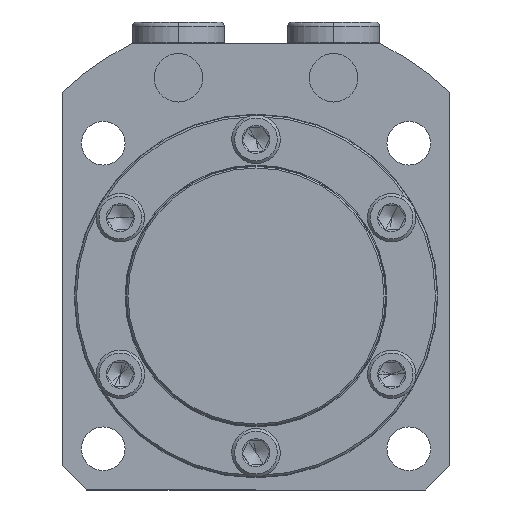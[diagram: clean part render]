
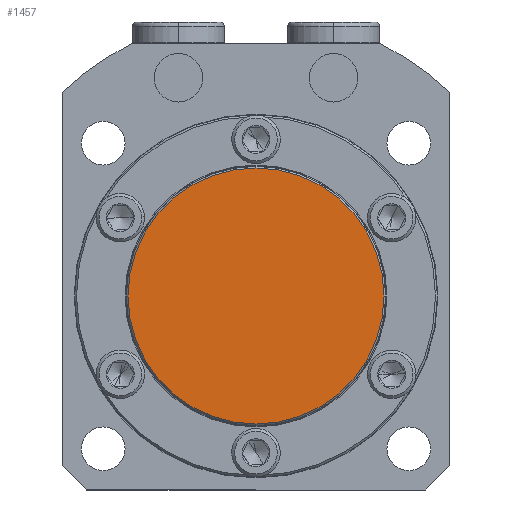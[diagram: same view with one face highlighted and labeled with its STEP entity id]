
A CAD part, front view. The second image highlights one B-rep face of the part: STEP entity #1457.
In plain terms, the highlighted planar face has unit normal (0, -1, 0).
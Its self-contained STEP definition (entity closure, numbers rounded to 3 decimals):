
#830 = EDGE_LOOP ( 'NONE', ( #1748, #1749 ) ) ;
#1014 = VERTEX_POINT ( 'NONE', #2310 ) ;
#1017 = VERTEX_POINT ( 'NONE', #2313 ) ;
#1383 = EDGE_CURVE ( 'NONE', #1014, #1017, #3781, .T. ) ;
#1457 = ADVANCED_FACE ( 'NONE', ( #5223 ), #5224, .T. ) ;
#1748 = ORIENTED_EDGE ( 'NONE', *, *, #1854, .T. ) ;
#1749 = ORIENTED_EDGE ( 'NONE', *, *, #1383, .T. ) ;
#1854 = EDGE_CURVE ( 'NONE', #1017, #1014, #5048, .T. ) ;
#2310 = CARTESIAN_POINT ( 'NONE',  ( 0., -12.2, -26.4 ) ) ;
#2313 = CARTESIAN_POINT ( 'NONE',  ( 0., -12.2, 26.4 ) ) ;
#3781 = CIRCLE ( 'NONE', #3786, 26.4 ) ;
#3786 = AXIS2_PLACEMENT_3D ( 'NONE', #4566, #4567, #4568 ) ;
#4566 = CARTESIAN_POINT ( 'NONE',  ( 0., -12.2, 0. ) ) ;
#4567 = DIRECTION ( 'NONE',  ( 0., -1., 0. ) ) ;
#4568 = DIRECTION ( 'NONE',  ( 0., 0., -1. ) ) ;
#4955 = AXIS2_PLACEMENT_3D ( 'NONE', #5199, #5227, #5228 ) ;
#5048 = CIRCLE ( 'NONE', #5051, 26.4 ) ;
#5051 = AXIS2_PLACEMENT_3D ( 'NONE', #5421, #5422, #5423 ) ;
#5199 = CARTESIAN_POINT ( 'NONE',  ( 0., -12.2, 0. ) ) ;
#5223 = FACE_OUTER_BOUND ( 'NONE', #830, .T. ) ;
#5224 = PLANE ( 'NONE',  #4955 ) ;
#5227 = DIRECTION ( 'NONE',  ( 0., -1., 0. ) ) ;
#5228 = DIRECTION ( 'NONE',  ( 0., 0., -1. ) ) ;
#5421 = CARTESIAN_POINT ( 'NONE',  ( 0., -12.2, 0. ) ) ;
#5422 = DIRECTION ( 'NONE',  ( 0., -1., 0. ) ) ;
#5423 = DIRECTION ( 'NONE',  ( 0., 0., -1. ) ) ;
